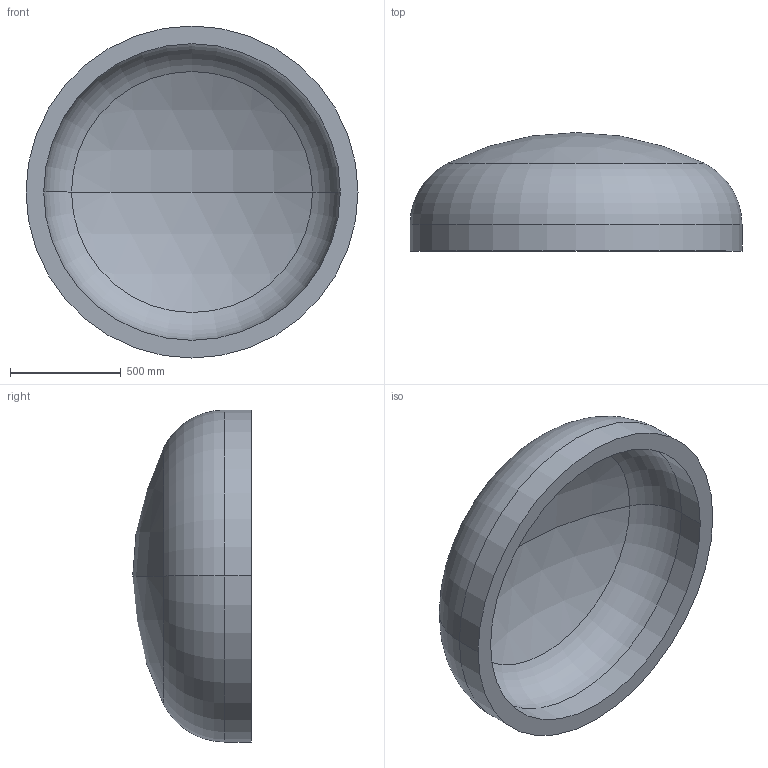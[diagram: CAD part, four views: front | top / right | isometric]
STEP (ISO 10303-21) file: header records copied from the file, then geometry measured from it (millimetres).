
FILE_DESCRIPTION (( 'STEP AP203' ), '1' );
FILE_NAME ('DIN 28013 Korbbogenform_-_Boden DIN 28013 - 1500 x 120 - I - s=80.step', '2016-07-01T10:54:24', ( '' ), ( '' ), 'SwSTEP 2.0', 'SolidWorks 2013', '' );
FILE_SCHEMA (( 'CONFIG_CONTROL_DESIGN' ));
Length unit declared in the file: millimetre
Products named in the file (1): DIN 28013 Korbbogenform_-_Boden DIN 28013 - 1500 x 120 - I - s=80
Bounding box: 1500 x 535.53 x 1500 mm (x, y, z)
Volume: 225525741.3 mm3; surface area: 6008431.2 mm2
Topology: 1 solids, 1 shells, 13 faces, 24 edges, 14 vertices
Faces by surface type: torus 4, cylinder 4, sphere 4, plane 1
Entity records: 407 total; most frequent: DIRECTION 72, CARTESIAN_POINT 52, ORIENTED_EDGE 48, AXIS2_PLACEMENT_3D 34, EDGE_CURVE 24, CIRCLE 20, VERTEX_POINT 14, EDGE_LOOP 14
